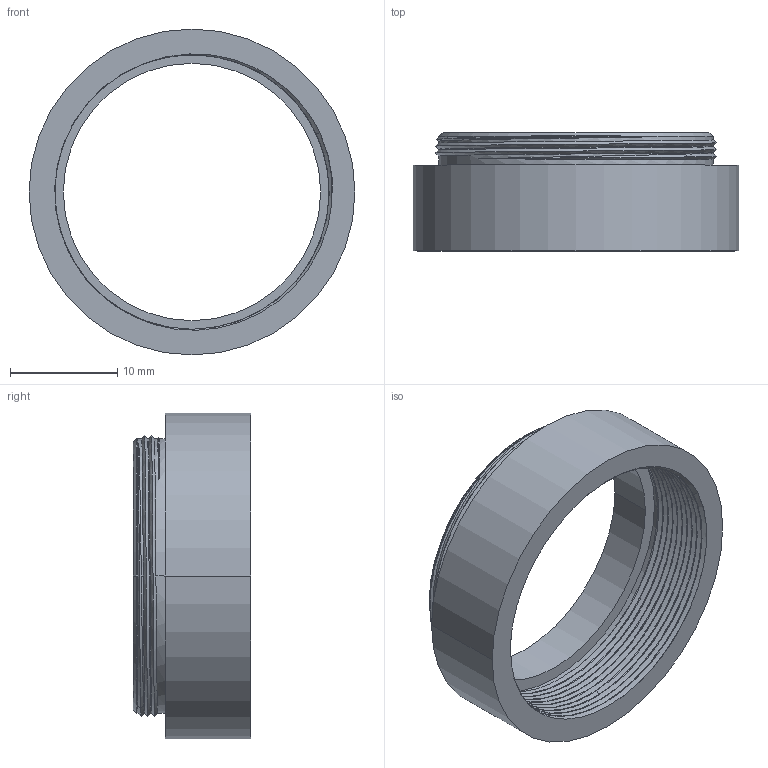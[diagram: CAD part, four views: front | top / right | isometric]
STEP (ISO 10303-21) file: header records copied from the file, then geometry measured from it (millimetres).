
FILE_DESCRIPTION((''),'2;1');
FILE_NAME('CSA-08','2020-10-29T',('Administrator'),(''),'CREO PARAMETRIC BY PTC INC, 2015290','CREO PARAMETRIC BY PTC INC, 2015290','');
FILE_SCHEMA(('CONFIG_CONTROL_DESIGN'));
Length unit declared in the file: millimetre
Products named in the file (1): CSA-08
Bounding box: 30.4 x 11 x 30.4 mm (x, y, z)
Volume: 1851.3 mm3; surface area: 2794.5 mm2
Topology: 1 solids, 1 shells, 54 faces, 140 edges, 91 vertices
Faces by surface type: cylinder 32, bspline 14, plane 6, cone 2
Entity records: 5396 total; most frequent: CARTESIAN_POINT 4199, ORIENTED_EDGE 280, DIRECTION 167, EDGE_CURVE 140, VERTEX_POINT 91, B_SPLINE_CURVE_WITH_KNOTS 73, AXIS2_PLACEMENT_3D 60, EDGE_LOOP 59
